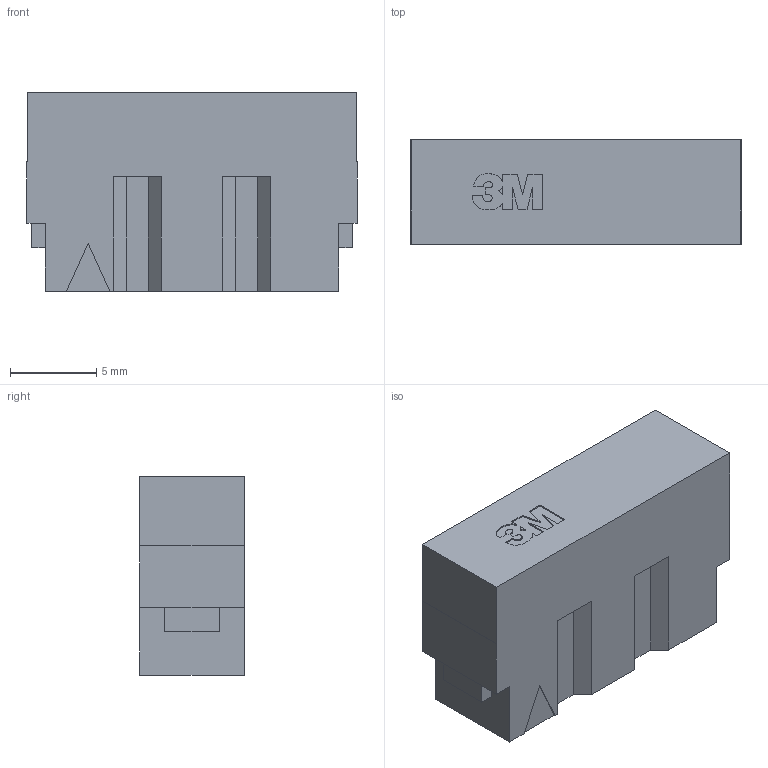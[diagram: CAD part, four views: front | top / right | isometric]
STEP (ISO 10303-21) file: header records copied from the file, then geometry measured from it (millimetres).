
FILE_DESCRIPTION(/* description */ (''),/* implementation_level */ '2;1');
FILE_NAME(/* name */ '82020-6000.stp',/* time_stamp */ '2008-12-02T12:42:32-06:00',/* author */ (''),/* organization */ (''),/* preprocessor_version */ 'ST-DEVELOPER v11',/* originating_system */ 'UGS - NX 5.0',/* authorisation */ '');
FILE_SCHEMA (('AUTOMOTIVE_DESIGN { 1 0 10303 214 1 1 1 1 }'));
Length unit declared in the file: inch
Products named in the file (1): 82020-6000
Bounding box: 19.18 x 6.1 x 11.53 mm (x, y, z)
Volume: 1278.8 mm3; surface area: 824.2 mm2
Topology: 1 solids, 1 shells, 161 faces, 411 edges, 274 vertices
Faces by surface type: plane 155, extrusion 6
Entity records: 5045 total; most frequent: CARTESIAN_POINT 1211, ORIENTED_EDGE 822, DIRECTION 674, EDGE_CURVE 411, VECTOR 362, LINE 356, VERTEX_POINT 274, EDGE_LOOP 183
